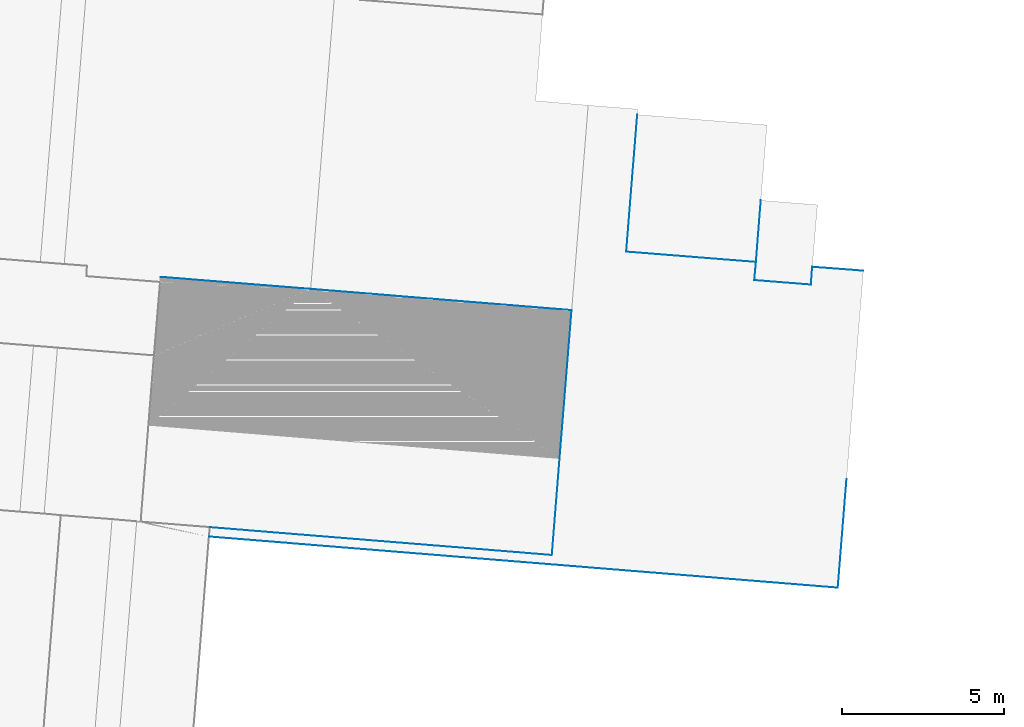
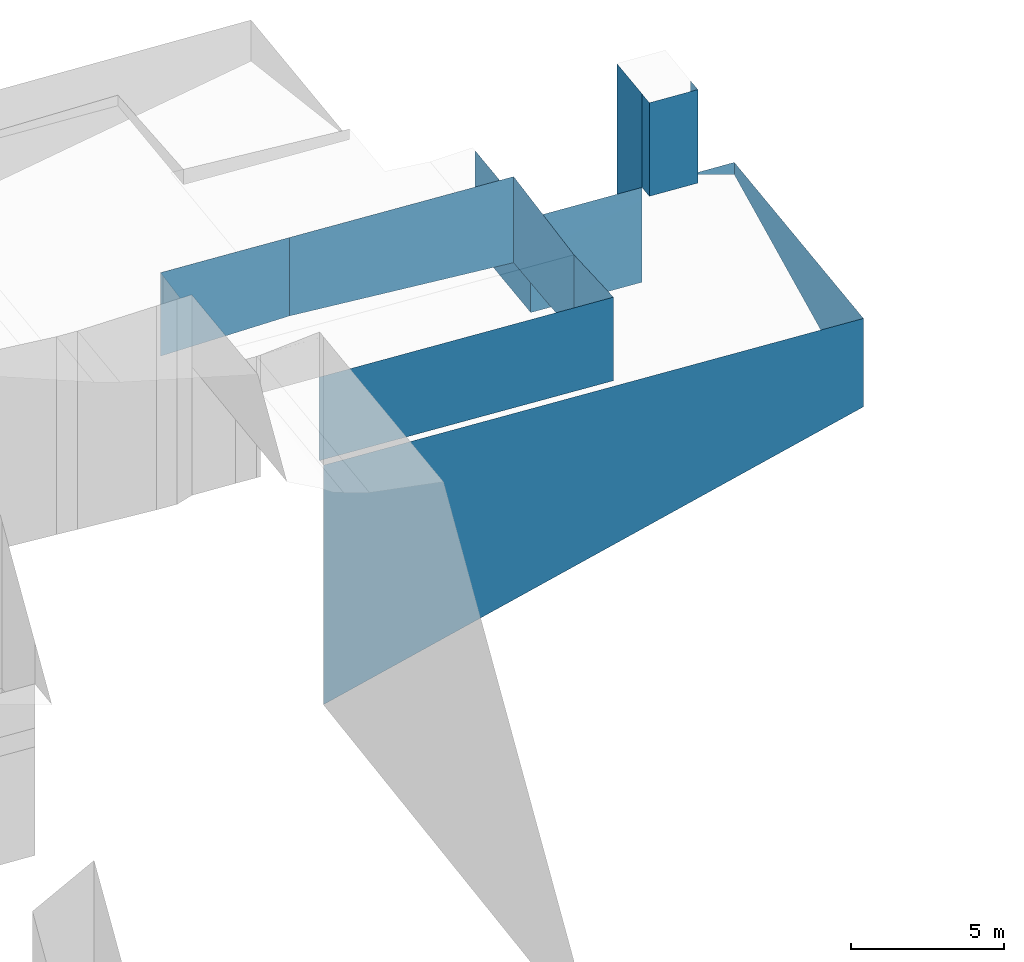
# Not in any storey, part 82 of 136: 14 walls.
"""IFC4 building model written with IfcOpenShell, lengths in metres."""

import ifcopenshell
import ifcopenshell.guid

model = None  # the IFC model being written
_history = None  # IfcOwnerHistory: only IFC2X3 demands one
_inside = {}  # id of a spatial element -> (the spatial element, [elements in it])
_under = {}  # id of a project, library or spatial element -> (it, [spatial elements below it])
_declared = {}  # id of a project -> (the project, [libraries it declares])
_typed = {}  # id of a type object -> (the type object, [elements of that type])
_made_of = {}  # id of a material, layer set ... -> (it, [elements and type objects made of it])


def new_model(schema):
    """Start an empty IFC model of exactly this schema.

    Asked for "IFC4X3", IfcOpenShell would pick the latest addendum, in which some entities
    have other attributes; the version numbers below select the first issue.
    IFC2X3 requires an IfcOwnerHistory on every rooted entity: one is made here for all.
    """
    global model, _history
    if schema == "IFC4X3":
        model = ifcopenshell.file(schema_version=(4, 3, 0, 0))
    else:
        model = ifcopenshell.file(schema=schema)
    _inside.clear()
    _under.clear()
    _declared.clear()
    _typed.clear()
    _made_of.clear()
    _history = None
    if model.schema == "IFC2X3":
        org = make("IfcOrganization", Name="unknown")
        user = make(
            "IfcPersonAndOrganization",
            ThePerson=make("IfcPerson", FamilyName="unknown"),
            TheOrganization=org,
        )
        app = make(
            "IfcApplication",
            ApplicationDeveloper=org,
            Version="unknown",
            ApplicationFullName="unknown",
            ApplicationIdentifier="unknown",
        )
        _history = make(
            "IfcOwnerHistory",
            OwningUser=user,
            OwningApplication=app,
            ChangeAction="ADDED",
            CreationDate=0,
        )
    return model


def make(cls, **values):
    """One entity of the class cls with the attributes given. An attribute that is None is left unset."""
    return model.create_entity(
        cls, **{name: value for name, value in values.items() if value is not None}
    )


def entity(cls, *values):
    """Any entity or typed value of the class cls, its attributes in the order of the schema. None: left unset."""
    e = model.create_entity(cls)
    for i, value in enumerate(values):
        if value is not None:
            e[i] = value
    return e


def rooted(cls, **values):
    """An entity with a GlobalId (a new one), such as an element, a storey or a relation."""
    return make(cls, GlobalId=ifcopenshell.guid.new(), OwnerHistory=_history, **values)


def si_unit(unit_type, name, prefix=None):
    """IfcSIUnit, for example si_unit("LENGTHUNIT", "METRE", prefix="MILLI")."""
    return make("IfcSIUnit", UnitType=unit_type, Prefix=prefix, Name=name)


def converted_unit(unit_type, name, factor, base, dimensions=None, offset=None):
    """IfcConversionBasedUnit, such as the inch: factor (a typed value) times the base unit."""
    return make(
        "IfcConversionBasedUnit"
        if offset is None
        else "IfcConversionBasedUnitWithOffset",
        ConversionOffset=offset,
        Dimensions=None
        if dimensions is None
        else entity("IfcDimensionalExponents", *dimensions),
        UnitType=unit_type,
        Name=name,
        ConversionFactor=make(
            "IfcMeasureWithUnit", ValueComponent=factor, UnitComponent=base
        ),
    )


def assignment(units):
    """IfcUnitAssignment: the units of a project."""
    return None if units is None else make("IfcUnitAssignment", Units=units)


def point(xyz):
    """IfcCartesianPoint."""
    return None if xyz is None else make("IfcCartesianPoint", Coordinates=xyz)


def direction(xyz):
    """IfcDirection."""
    return None if xyz is None else make("IfcDirection", DirectionRatios=xyz)


def frame(location, z_axis=None, x_axis=None):
    """IfcAxis2Placement3D, a coordinate frame: its origin and axes. An axis left out is left unset."""
    return make(
        "IfcAxis2Placement3D",
        Location=point(location),
        Axis=direction(z_axis),
        RefDirection=direction(x_axis),
    )


def origin():
    """The frame at (0, 0, 0) with its axes left unset."""
    return frame((0.0, 0.0, 0.0))


def place(relative_to, where):
    """IfcLocalPlacement: puts the frame where relative to a parent placement (None: the world)."""
    return make(
        "IfcLocalPlacement", PlacementRelTo=relative_to, RelativePlacement=where
    )


def context(
    kind, dimensions, precision=None, world=None, true_north=None, identifier=None
):
    """IfcGeometricRepresentationContext, for example the 3D "Model" context."""
    return make(
        "IfcGeometricRepresentationContext",
        ContextIdentifier=identifier,
        ContextType=kind,
        CoordinateSpaceDimension=dimensions,
        Precision=precision,
        WorldCoordinateSystem=world,
        TrueNorth=true_north,
    )


def subcontext(parent, identifier, kind, view, scale=None):
    """IfcGeometricRepresentationSubContext, for example "Body" below "Model"."""
    return make(
        "IfcGeometricRepresentationSubContext",
        ContextIdentifier=identifier,
        ContextType=kind,
        ParentContext=parent,
        TargetScale=scale,
        TargetView=view,
    )


def project(units=None, contexts=None):
    """IfcProject with its units and contexts."""
    return rooted(
        "IfcProject",
        Name="project",
        RepresentationContexts=contexts,
        UnitsInContext=assignment(units),
    )


def spatial(cls, under=None, at=None, **own):
    """A site, building, storey or space (cls), placed at a placement, below another one or the project."""
    s = rooted(cls, ObjectPlacement=at, **own)
    if under is not None:
        _under.setdefault(under.id(), (under, []))[1].append(s)
    return s


def faces_of(points, faces, orient=None, outer=None):
    """IfcFace entities. A face is a list of loops; a loop is a list of indices into points, from 0.

    orient and outer hold one flag for each loop. By default every Orientation is true, the
    first loop of a face is its IfcFaceOuterBound and the others are IfcFaceBound.
    """
    made = []
    for i, loops in enumerate(faces):
        bounds = []
        for j, loop in enumerate(loops):
            is_outer = j == 0 if outer is None else outer[i][j]
            bounds.append(
                make(
                    "IfcFaceOuterBound" if is_outer else "IfcFaceBound",
                    Bound=make("IfcPolyLoop", Polygon=[points[k] for k in loop]),
                    Orientation=True if orient is None else orient[i][j],
                )
            )
        made.append(make("IfcFace", Bounds=bounds))
    return made


def face_set(faces, orient=None, outer=None):
    """The faces of one IfcConnectedFaceSet. surface_model builds it on its shared points."""
    return ("IfcConnectedFaceSet", faces, orient, outer)


def surface_model(cls, points, shells):
    """IfcFaceBasedSurfaceModel or IfcShellBasedSurfaceModel (cls): surfaces that need not close."""
    shared = [point(p) for p in points]
    made = [make(c, CfsFaces=faces_of(shared, fs, o, b)) for c, fs, o, b in shells]
    if cls == "IfcFaceBasedSurfaceModel":
        return make(cls, FbsmFaces=made)
    return make(cls, SbsmBoundary=made)


def shape(context_of_items, identifier, shape_type, items):
    """IfcShapeRepresentation: the items that make up one representation, for example the "Body"."""
    return make(
        "IfcShapeRepresentation",
        ContextOfItems=context_of_items,
        RepresentationIdentifier=identifier,
        RepresentationType=shape_type,
        Items=items,
    )


def made_of(thing, what):
    """Note that an element or type object is made of a material, layer set ...; save() writes the relation."""
    if what is not None:
        _made_of.setdefault(what.id(), (what, []))[1].append(thing)
    return thing


def element(
    cls,
    number,
    at=None,
    inside=None,
    cuts=None,
    type_object=None,
    material=None,
    context=None,
    identifier="Body",
    shape_type=None,
    held_by="IfcProductDefinitionShape",
    body=None,
    shapes=None,
    **own,
):
    """One element of the class cls, such as IfcWall. Its Tag is "e" and its number.

    at: its placement. inside: the storey or other place that contains it. cuts: it is an
    opening in that element (IfcRelVoidsElement). A single representation is given by context,
    identifier, shape_type and body (its items); several are given by shapes. held_by: the class
    of the entity that holds the representations. save() writes the other relations.
    """
    e = rooted(cls, Tag="e%d" % number, ObjectPlacement=at, **own)
    if body is not None:
        shapes = [shape(context, identifier, shape_type, body)]
    if shapes is not None:
        e.Representation = make(held_by, Representations=shapes)
    if inside is not None:
        _inside.setdefault(inside.id(), (inside, []))[1].append(e)
    if cuts is not None:
        rooted(
            "IfcRelVoidsElement", RelatingBuildingElement=cuts, RelatedOpeningElement=e
        )
    if type_object is not None:
        _typed.setdefault(type_object.id(), (type_object, []))[1].append(e)
    return made_of(e, material)


def aggregate(whole, parts):
    """IfcRelAggregates: a whole, such as a stair, and the parts it consists of."""
    return rooted("IfcRelAggregates", RelatingObject=whole, RelatedObjects=parts)


def save(model, path):
    """Write the relations noted so far, then the file.

    IfcRelAggregates (storeys below a building ...), IfcRelContainedInSpatialStructure (elements
    in a storey), IfcRelDefinesByType, IfcRelAssociatesMaterial and IfcRelDeclares: one each for
    every whole, place, type object, material and project.
    """
    for whole, parts in _under.values():
        aggregate(whole, parts)
    for where, things in _inside.values():
        rooted(
            "IfcRelContainedInSpatialStructure",
            RelatedElements=things,
            RelatingStructure=where,
        )
    for kind, things in _typed.values():
        rooted("IfcRelDefinesByType", RelatedObjects=things, RelatingType=kind)
    for what, things in _made_of.values():
        rooted("IfcRelAssociatesMaterial", RelatedObjects=things, RelatingMaterial=what)
    for by, libraries in _declared.values():
        rooted("IfcRelDeclares", RelatingContext=by, RelatedDefinitions=libraries)
    model.write(path)


model = new_model("IFC4")

# Units and contexts
model_context = context("Model", 3, precision=1e-05, world=origin())
body_context = subcontext(model_context, "Body", "Model", "MODEL_VIEW")
ifc_project = project(units=[converted_unit("PLANEANGLEUNIT", "DEGREE", entity("IfcRatioMeasure", 0.0174532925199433), si_unit("PLANEANGLEUNIT", "RADIAN"), dimensions=[0, 0, 0, 0, 0, 0, 0]), si_unit("AREAUNIT", "SQUARE_METRE"), si_unit("LENGTHUNIT", "METRE")], contexts=[model_context])

# Site, building
site_placement = place(None, origin())
site = spatial("IfcSite", under=ifc_project, at=site_placement, Name="_site")
building_placement = place(site_placement, origin())
building = spatial("IfcBuilding", under=site, at=building_placement, Name="_building")

# Walls
wall_1_placement = place(building_placement, origin())
element("IfcWall", 1, at=wall_1_placement, inside=building, Name="Wall", PredefinedType="NOTDEFINED", context=body_context, shape_type="SurfaceModel", body=[
    surface_model("IfcFaceBasedSurfaceModel", [(248.5, 113.69, 51.95), (248.46, 113.14, 51.95), (248.46, 113.14, 48.22), (248.5, 113.69, 48.22)], [face_set([[[0, 1, 2, 3]]])]),
])
wall_2_placement = place(building_placement, origin())
element("IfcWall", 2, at=wall_2_placement, inside=building, Name="Wall", PredefinedType="NOTDEFINED", context=body_context, shape_type="SurfaceModel", body=[
    surface_model("IfcFaceBasedSurfaceModel", [(248.46, 113.14, 51.95), (246.71, 113.28, 51.95), (246.71, 113.28, 48.22), (248.46, 113.14, 48.22)], [face_set([[[0, 1, 2, 3]]])]),
])
wall_3_placement = place(building_placement, origin())
element("IfcWall", 3, at=wall_3_placement, inside=building, Name="Wall", PredefinedType="NOTDEFINED", context=body_context, shape_type="SurfaceModel", body=[
    surface_model("IfcFaceBasedSurfaceModel", [(246.71, 113.28, 51.95), (246.76, 113.84, 51.95), (246.76, 113.84, 48.22), (246.71, 113.28, 48.22)], [face_set([[[0, 1, 2, 3]]])]),
])
wall_4_placement = place(building_placement, origin())
element("IfcWall", 4, at=wall_4_placement, inside=building, Name="Wall", PredefinedType="NOTDEFINED", context=body_context, shape_type="SurfaceModel", body=[
    surface_model("IfcFaceBasedSurfaceModel", [(242.75, 114.16, 48.22), (246.76, 113.84, 48.22), (246.76, 113.84, 44.44), (242.75, 114.16, 44.44)], [face_set([[[0, 1, 2, 3]]])]),
])
wall_5_placement = place(building_placement, origin())
element("IfcWall", 5, at=wall_5_placement, inside=building, Name="Wall", PredefinedType="NOTDEFINED", context=body_context, shape_type="SurfaceModel", body=[
    surface_model("IfcFaceBasedSurfaceModel", [(243.09, 118.4, 48.22), (242.75, 114.16, 48.22), (242.75, 114.16, 44.44), (243.09, 118.4, 44.44)], [face_set([[[0, 1, 2, 3]]])]),
])
wall_6_placement = place(building_placement, origin())
element("IfcWall", 6, at=wall_6_placement, inside=building, Name="Wall", PredefinedType="NOTDEFINED", context=body_context, shape_type="SurfaceModel", body=[
    surface_model("IfcFaceBasedSurfaceModel", [(240.69, 107.771, 51.34), (240.45, 104.78, 51.55), (240.45, 104.78, 48.22), (240.69, 107.771, 48.18)], [face_set([[[0, 1, 2, 3]]])]),
])
wall_7_placement = place(building_placement, origin())
element("IfcWall", 7, at=wall_7_placement, inside=building, Name="Wall", PredefinedType="NOTDEFINED", context=body_context, shape_type="SurfaceModel", body=[
    surface_model("IfcFaceBasedSurfaceModel", [(241.06, 112.351, 51.55), (240.69, 107.771, 51.34), (240.69, 107.771, 48.18), (241.06, 112.351, 48.12)], [face_set([[[0, 1, 2, 3]]])]),
])
wall_8_placement = place(building_placement, origin())
element("IfcWall", 8, at=wall_8_placement, inside=building, Name="Wall", PredefinedType="NOTDEFINED", context=body_context, shape_type="SurfaceModel", body=[
    surface_model("IfcFaceBasedSurfaceModel", [(246.76, 113.84, 51.95), (246.91, 115.75, 51.95), (246.91, 115.75, 44.44), (246.76, 113.84, 44.44)], [face_set([[[0, 1, 2, 3]]])]),
])
wall_9_placement = place(building_placement, origin())
element("IfcWall", 9, at=wall_9_placement, inside=building, Name="Wall", PredefinedType="NOTDEFINED", context=body_context, shape_type="SurfaceModel", body=[
    surface_model("IfcFaceBasedSurfaceModel", [(249.29, 103.771, 48.22), (229.85, 105.351, 48.22), (229.85, 105.351, 38.677), (249.29, 103.771, 44.697)], [face_set([[[0, 1, 2, 3]]])]),
])
wall_10_placement = place(building_placement, origin())
element("IfcWall", 10, at=wall_10_placement, inside=building, Name="Wall", PredefinedType="NOTDEFINED", context=body_context, shape_type="SurfaceModel", body=[
    surface_model("IfcFaceBasedSurfaceModel", [(232.99, 113.008, 51.55), (241.06, 112.351, 51.55), (241.06, 112.351, 48.12), (232.99, 113.008, 48.42)], [face_set([[[0, 1, 2, 3]]])]),
])
wall_11_placement = place(building_placement, origin())
element("IfcWall", 11, at=wall_11_placement, inside=building, Name="Wall", PredefinedType="NOTDEFINED", context=body_context, shape_type="SurfaceModel", body=[
    surface_model("IfcFaceBasedSurfaceModel", [(240.45, 104.78, 51.55), (229.88, 105.64, 51.55), (229.88, 105.64, 48.22), (240.45, 104.78, 48.22)], [face_set([[[0, 1, 2, 3]]])]),
])
wall_12_placement = place(building_placement, origin())
element("IfcWall", 12, at=wall_12_placement, inside=building, Name="Wall", PredefinedType="NOTDEFINED", context=body_context, shape_type="SurfaceModel", body=[
    surface_model("IfcFaceBasedSurfaceModel", [(228.35, 113.38, 51.55), (232.99, 113.008, 51.55), (232.99, 113.008, 48.42), (228.35, 113.38, 48.22)], [face_set([[[0, 1, 2, 3]]])]),
])
wall_13_placement = place(building_placement, origin())
element("IfcWall", 13, at=wall_13_placement, inside=building, Name="Wall", PredefinedType="NOTDEFINED", context=body_context, shape_type="SurfaceModel", body=[
    surface_model("IfcFaceBasedSurfaceModel", [(250.08, 113.57, 48.22), (249.29, 103.771, 48.22), (249.29, 103.771, 44.697), (250.08, 113.57, 47.731)], [face_set([[[0, 1, 2, 3]]])]),
])
wall_14_placement = place(building_placement, origin())
element("IfcWall", 14, at=wall_14_placement, inside=building, Name="Wall", PredefinedType="NOTDEFINED", context=body_context, shape_type="SurfaceModel", body=[
    surface_model("IfcFaceBasedSurfaceModel", [(248.5, 113.69, 48.22), (250.08, 113.57, 48.22), (250.08, 113.57, 47.731)], [face_set([[[0, 1, 2]]])]),
])

save(model, "model.ifc")
